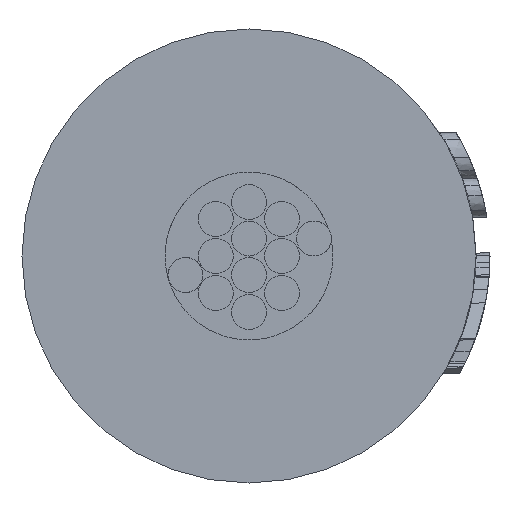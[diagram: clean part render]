
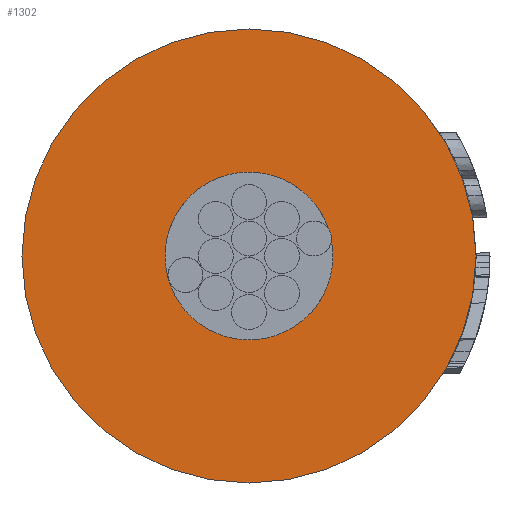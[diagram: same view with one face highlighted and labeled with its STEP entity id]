
A CAD part, front view. The second image highlights one B-rep face of the part: STEP entity #1302.
In plain terms, the highlighted planar face has unit normal (0, -1, 0).
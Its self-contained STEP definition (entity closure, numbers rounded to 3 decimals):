
#151=FACE_BOUND('',#3768,.T.);
#152=FACE_BOUND('',#3769,.T.);
#315=CIRCLE('',#13707,1.2);
#319=CIRCLE('',#13715,3.25);
#623=PLANE('',#13716);
#1302=ADVANCED_FACE('',(#151,#152),#623,.F.);
#3768=EDGE_LOOP('',(#6144));
#3769=EDGE_LOOP('',(#6145));
#6144=ORIENTED_EDGE('',*,*,#10851,.F.);
#6145=ORIENTED_EDGE('',*,*,#10847,.T.);
#9007=VERTEX_POINT('',#27026);
#9011=VERTEX_POINT('',#27038);
#10847=EDGE_CURVE('',#9007,#9007,#315,.T.);
#10851=EDGE_CURVE('',#9011,#9011,#319,.T.);
#13707=AXIS2_PLACEMENT_3D('',#27025,#14941,#14942);
#13715=AXIS2_PLACEMENT_3D('',#27037,#14957,#14958);
#13716=AXIS2_PLACEMENT_3D('',#27039,#14959,#14960);
#14941=DIRECTION('',(0.,1.,0.));
#14942=DIRECTION('',(1.,0.,0.));
#14957=DIRECTION('',(0.,1.,0.));
#14958=DIRECTION('',(1.,0.,0.));
#14959=DIRECTION('',(0.,1.,0.));
#14960=DIRECTION('',(-1.,0.,0.));
#27025=CARTESIAN_POINT('',(0.,2.,0.));
#27026=CARTESIAN_POINT('',(1.2,2.,0.));
#27037=CARTESIAN_POINT('',(0.,2.,0.));
#27038=CARTESIAN_POINT('',(3.25,2.,0.));
#27039=CARTESIAN_POINT('',(0.,2.,0.));
